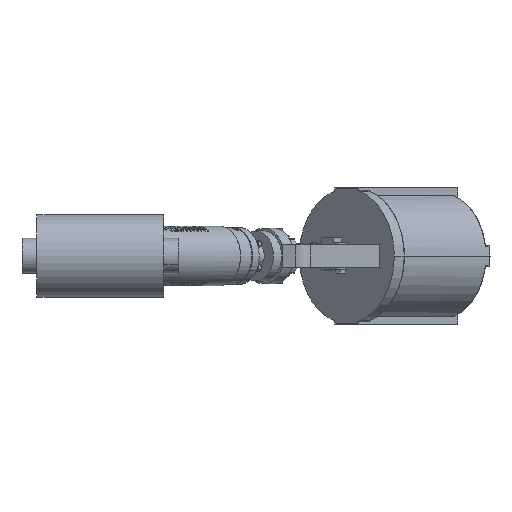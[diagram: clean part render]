
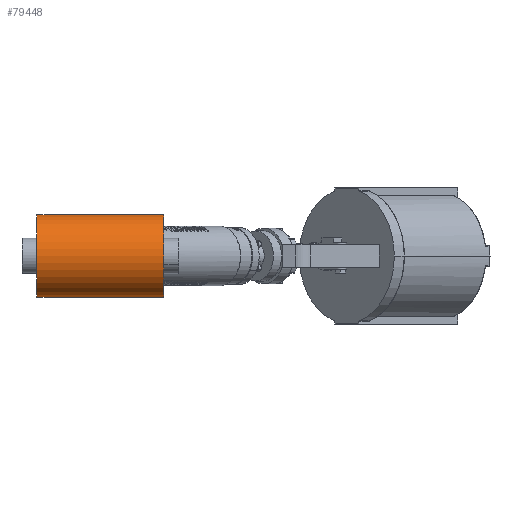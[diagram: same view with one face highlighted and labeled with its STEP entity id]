
A CAD part, front view. The second image highlights one B-rep face of the part: STEP entity #79448.
In plain terms, the highlighted cylindrical face has radius 70.65 mm (diameter 141.3 mm), a partial arc.
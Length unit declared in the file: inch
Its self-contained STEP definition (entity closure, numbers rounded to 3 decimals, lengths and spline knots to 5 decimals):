
#1401 = CARTESIAN_POINT ( 'NONE',  ( 14.05727, 0., 0. ) ) ;
#4396 = VERTEX_POINT ( 'NONE', #104631 ) ;
#15212 = AXIS2_PLACEMENT_3D ( 'NONE', #1401, #49996, #49250 ) ;
#26837 = DIRECTION ( 'NONE',  ( -1., 0., 0. ) ) ;
#31108 = DIRECTION ( 'NONE',  ( -1., 0., 0. ) ) ;
#34386 = EDGE_CURVE ( 'NONE', #151890, #81493, #88494, .T. ) ;
#36800 = DIRECTION ( 'NONE',  ( 1., 0., 0. ) ) ;
#41339 = ORIENTED_EDGE ( 'NONE', *, *, #76989, .T. ) ;
#42384 = VECTOR ( 'NONE', #145591, 39.37008 ) ;
#46098 = CARTESIAN_POINT ( 'NONE',  ( 6.19, 0., 2.7815 ) ) ;
#48496 = CARTESIAN_POINT ( 'NONE',  ( 14.05727, 0., 2.7815 ) ) ;
#49250 = DIRECTION ( 'NONE',  ( 0., 0., 1. ) ) ;
#49996 = DIRECTION ( 'NONE',  ( -1., 0., 0. ) ) ;
#50376 = EDGE_LOOP ( 'NONE', ( #117471, #88877, #41339, #79963 ) ) ;
#52240 = CARTESIAN_POINT ( 'NONE',  ( 14.05727, 0., -2.7815 ) ) ;
#55275 = AXIS2_PLACEMENT_3D ( 'NONE', #85179, #31108, #77432 ) ;
#59219 = CARTESIAN_POINT ( 'NONE',  ( 6.19, 0., 0. ) ) ;
#62722 = CIRCLE ( 'NONE', #144114, 2.7815 ) ;
#76989 = EDGE_CURVE ( 'NONE', #133305, #4396, #81709, .T. ) ;
#77432 = DIRECTION ( 'NONE',  ( 0., 0., 1. ) ) ;
#79448 = ADVANCED_FACE ( 'NONE', ( #83211 ), #95543, .T. ) ;
#79963 = ORIENTED_EDGE ( 'NONE', *, *, #97536, .F. ) ;
#81493 = VERTEX_POINT ( 'NONE', #145160 ) ;
#81709 = LINE ( 'NONE', #48496, #130971 ) ;
#83211 = FACE_OUTER_BOUND ( 'NONE', #50376, .T. ) ;
#85179 = CARTESIAN_POINT ( 'NONE',  ( -2.31, 0., 0. ) ) ;
#88494 = LINE ( 'NONE', #52240, #42384 ) ;
#88877 = ORIENTED_EDGE ( 'NONE', *, *, #123583, .F. ) ;
#94694 = DIRECTION ( 'NONE',  ( 0., 0., 1. ) ) ;
#95543 = CYLINDRICAL_SURFACE ( 'NONE', #15212, 2.7815 ) ;
#97536 = EDGE_CURVE ( 'NONE', #81493, #4396, #148892, .T. ) ;
#104631 = CARTESIAN_POINT ( 'NONE',  ( -2.31, 0., 2.7815 ) ) ;
#107026 = CARTESIAN_POINT ( 'NONE',  ( 6.19, 0., -2.7815 ) ) ;
#117471 = ORIENTED_EDGE ( 'NONE', *, *, #34386, .F. ) ;
#123583 = EDGE_CURVE ( 'NONE', #133305, #151890, #62722, .T. ) ;
#130971 = VECTOR ( 'NONE', #26837, 39.37008 ) ;
#133305 = VERTEX_POINT ( 'NONE', #46098 ) ;
#144114 = AXIS2_PLACEMENT_3D ( 'NONE', #59219, #36800, #94694 ) ;
#145160 = CARTESIAN_POINT ( 'NONE',  ( -2.31, 0., -2.7815 ) ) ;
#145591 = DIRECTION ( 'NONE',  ( -1., 0., 0. ) ) ;
#148892 = CIRCLE ( 'NONE', #55275, 2.7815 ) ;
#151890 = VERTEX_POINT ( 'NONE', #107026 ) ;
